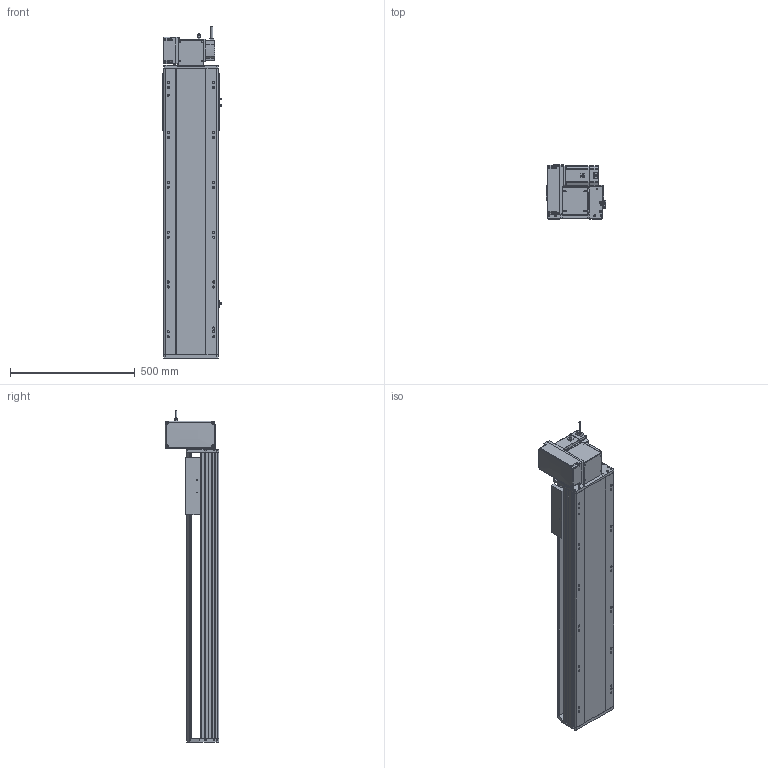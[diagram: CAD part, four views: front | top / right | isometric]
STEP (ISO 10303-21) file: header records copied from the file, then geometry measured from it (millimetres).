
FILE_DESCRIPTION (( 'STEP AP214' ), '1' );
FILE_NAME ('RTB22S-XX-800-LW-M75-C4.STEP', '2025-12-12T05:53:54', ( '' ), ( '' ), 'SwSTEP 2.0', 'SolidWorks 2018', '' );
FILE_SCHEMA (( 'AUTOMOTIVE_DESIGN' ));
Length unit declared in the file: millimetre
Products named in the file (14): RTB22S-L-004賑釱^RTB22S-XX-XX-LW-M75-C4; RTB22S-GY-007奻裔^RTB22S-XX-XX-LW-M75-C4; RTB22S-XX-800-LW-M75-C4; RTB22S-GY-017P^RTB22S-LW-々湍釱蚾饜_RTB22S-XX-XX-LW-M75-C4; RTB22S-GY-018P^RTB22S-LW-々湍釱蚾饜_RTB22S-XX-XX-LW-M75-C4; RTB22S-GY-014--々湍釱^RTB22S-LW-々湍釱蚾饜_RTB22S-XX-XX-LW-M75-C4; RTB22S-LW-々湍釱蚾饜^RTB22S-XX-XX-LW-M75-C4; 750W萇儂^RTB22S-XX-XX-LW-M75-C4; OMRON EE-SX672 传感器^RTB22S-XX-XX-LW-M75-C4; RTB22S-L-011菁釱^RTB22S-XX-XX-LW-M75-C4; RTB22S-GY-001耜裔^RTB22S-XX-XX-LW-M75-C4; RTB22S-GY-005P^RTB22S-LW-々湍釱蚾饜_RTB22S-XX-XX-LW-M75-C4; RTB22S-GY-008-M75--萇儂啣^RTB22S-LW-々湍釱蚾饜_RTB22S-XX-XX-LW-M75-C4; RTH22-GY-013外置感应片^RTB22S-XX-XX-LW-M75-C4
Assembly tree (16 placements, depth 3):
  RTB22S-XX-800-LW-M75-C4
    RTB22S-L-011菁釱^RTB22S-XX-XX-LW-M75-C4
    RTB22S-GY-001耜裔^RTB22S-XX-XX-LW-M75-C4
    750W萇儂^RTB22S-XX-XX-LW-M75-C4
    RTB22S-GY-007奻裔^RTB22S-XX-XX-LW-M75-C4
    RTB22S-L-004賑釱^RTB22S-XX-XX-LW-M75-C4
    RTH22-GY-013外置感应片^RTB22S-XX-XX-LW-M75-C4
    OMRON EE-SX672 传感器^RTB22S-XX-XX-LW-M75-C4  x3
    RTB22S-LW-々湍釱蚾饜^RTB22S-XX-XX-LW-M75-C4
      RTB22S-GY-014--々湍釱^RTB22S-LW-々湍釱蚾饜_RTB22S-XX-XX-LW-M75-C4
      RTB22S-GY-017P^RTB22S-LW-々湍釱蚾饜_RTB22S-XX-XX-LW-M75-C4  x2
      RTB22S-GY-005P^RTB22S-LW-々湍釱蚾饜_RTB22S-XX-XX-LW-M75-C4
      RTB22S-GY-008-M75--萇儂啣^RTB22S-LW-々湍釱蚾饜_RTB22S-XX-XX-LW-M75-C4
      RTB22S-GY-018P^RTB22S-LW-々湍釱蚾饜_RTB22S-XX-XX-LW-M75-C4
Bounding box: 238.5 x 215.5 x 1332.2 mm (x, y, z)
Volume: 18963144.8 mm3; surface area: 1982099 mm2
Topology: 15 solids, 15 shells, 1947 faces, 5286 edges, 3392 vertices
Faces by surface type: plane 911, cylinder 598, bspline 296, cone 130, sphere 8, torus 4
Entity records: 51452 total; most frequent: CARTESIAN_POINT 14876, ORIENTED_EDGE 7376, DIRECTION 7062, EDGE_CURVE 3688, AXIS2_PLACEMENT_3D 2478, VERTEX_POINT 2396, LINE 2106, VECTOR 2106
